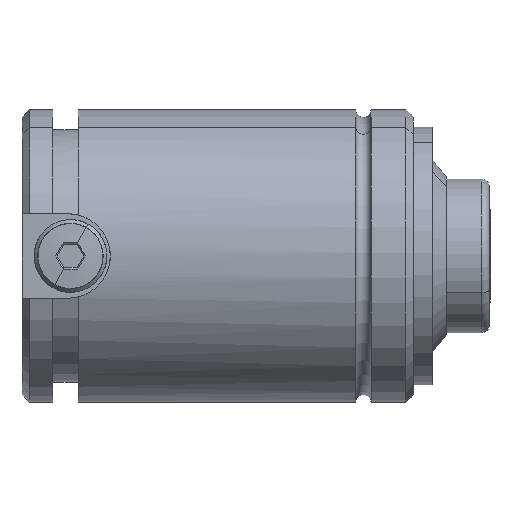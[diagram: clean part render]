
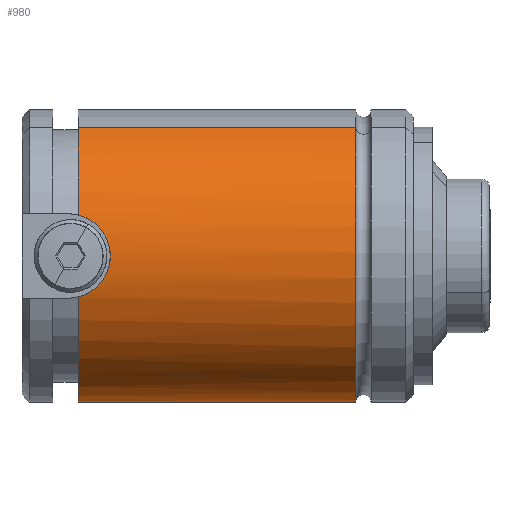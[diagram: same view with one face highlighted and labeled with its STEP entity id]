
A CAD part, front view. The second image highlights one B-rep face of the part: STEP entity #980.
In plain terms, the highlighted cylindrical face has radius 19.1 mm (diameter 38.2 mm), a partial arc.
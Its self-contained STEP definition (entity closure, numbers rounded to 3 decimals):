
#79=CARTESIAN_POINT('Vertex',(43.5,9.157,-16.762)) ;
#86=CARTESIAN_POINT('Vertex',(43.5,-9.157,16.762)) ;
#106=CARTESIAN_POINT('Axis2P3D Location',(43.5,0.,0.)) ;
#118=CARTESIAN_POINT('Axis2P3D Location',(25.5,0.,0.)) ;
#123=CARTESIAN_POINT('Line Origine',(25.5,9.157,-16.762)) ;
#127=CARTESIAN_POINT('Vertex',(7.35,9.157,-16.762)) ;
#134=CARTESIAN_POINT('Vertex',(7.35,-9.157,16.762)) ;
#137=CARTESIAN_POINT('Line Origine',(25.5,-9.157,16.762)) ;
#867=CARTESIAN_POINT('Vertex',(11.5,-19.1,0.)) ;
#871=CARTESIAN_POINT('Control Point',(7.35,-18.341,5.332)) ;
#872=CARTESIAN_POINT('Control Point',(8.766,-18.445,4.973)) ;
#873=CARTESIAN_POINT('Control Point',(10.05,-18.676,4.145)) ;
#874=CARTESIAN_POINT('Control Point',(11.008,-18.96,2.93)) ;
#875=CARTESIAN_POINT('Control Point',(11.5,-19.1,1.464)) ;
#876=CARTESIAN_POINT('Control Point',(11.5,-19.1,0.)) ;
#877=CARTESIAN_POINT('Vertex',(7.35,-18.341,5.332)) ;
#936=CARTESIAN_POINT('Control Point',(7.35,-18.341,-5.332)) ;
#937=CARTESIAN_POINT('Control Point',(8.766,-18.445,-4.973)) ;
#938=CARTESIAN_POINT('Control Point',(10.05,-18.676,-4.145)) ;
#939=CARTESIAN_POINT('Control Point',(11.009,-18.96,-2.93)) ;
#940=CARTESIAN_POINT('Control Point',(11.5,-19.1,-1.464)) ;
#941=CARTESIAN_POINT('Control Point',(11.5,-19.1,0.)) ;
#942=CARTESIAN_POINT('Vertex',(7.35,-18.341,-5.332)) ;
#945=CARTESIAN_POINT('Axis2P3D Location',(7.35,0.,0.)) ;
#949=CARTESIAN_POINT('Vertex',(7.35,-18.291,-5.5)) ;
#952=CARTESIAN_POINT('Axis2P3D Location',(7.35,0.,0.)) ;
#957=CARTESIAN_POINT('Axis2P3D Location',(7.35,0.,0.)) ;
#961=CARTESIAN_POINT('Vertex',(7.35,-18.291,5.5)) ;
#964=CARTESIAN_POINT('Axis2P3D Location',(7.35,0.,0.)) ;
#107=DIRECTION('Axis2P3D Direction',(1.,0.,0.)) ;
#119=DIRECTION('Axis2P3D Direction',(1.,0.,0.)) ;
#120=DIRECTION('Axis2P3D XDirection',(0.,0.479,-0.878)) ;
#124=DIRECTION('Vector Direction',(1.,0.,0.)) ;
#138=DIRECTION('Vector Direction',(1.,0.,0.)) ;
#946=DIRECTION('Axis2P3D Direction',(1.,0.,0.)) ;
#953=DIRECTION('Axis2P3D Direction',(1.,0.,0.)) ;
#958=DIRECTION('Axis2P3D Direction',(1.,0.,0.)) ;
#965=DIRECTION('Axis2P3D Direction',(1.,0.,0.)) ;
#108=AXIS2_PLACEMENT_3D('Circle Axis2P3D',#106,#107,$) ;
#121=AXIS2_PLACEMENT_3D('Cylinder Axis2P3D',#118,#119,#120) ;
#947=AXIS2_PLACEMENT_3D('Circle Axis2P3D',#945,#946,$) ;
#954=AXIS2_PLACEMENT_3D('Circle Axis2P3D',#952,#953,$) ;
#959=AXIS2_PLACEMENT_3D('Circle Axis2P3D',#957,#958,$) ;
#966=AXIS2_PLACEMENT_3D('Circle Axis2P3D',#964,#965,$) ;
#970=ORIENTED_EDGE('',*,*,#944,.T.) ;
#971=ORIENTED_EDGE('',*,*,#951,.T.) ;
#972=ORIENTED_EDGE('',*,*,#956,.T.) ;
#973=ORIENTED_EDGE('',*,*,#129,.F.) ;
#974=ORIENTED_EDGE('',*,*,#110,.F.) ;
#975=ORIENTED_EDGE('',*,*,#141,.T.) ;
#976=ORIENTED_EDGE('',*,*,#963,.T.) ;
#977=ORIENTED_EDGE('',*,*,#968,.T.) ;
#978=ORIENTED_EDGE('',*,*,#879,.T.) ;
#125=VECTOR('Line Direction',#124,1.) ;
#139=VECTOR('Line Direction',#138,1.) ;
#980=ADVANCED_FACE('',(#979),#122,.T.) ;
#870=B_SPLINE_CURVE_WITH_KNOTS('',5,(#871,#872,#873,#874,#875,#876),.UNSPECIFIED.,.F.,.U.,(6,6),(0.,10.353),.UNSPECIFIED.) ;
#935=B_SPLINE_CURVE_WITH_KNOTS('',5,(#936,#937,#938,#939,#940,#941),.UNSPECIFIED.,.F.,.U.,(6,6),(0.,10.353),.UNSPECIFIED.) ;
#109=CIRCLE('generated circle',#108,19.1) ;
#948=CIRCLE('generated circle',#947,19.1) ;
#955=CIRCLE('generated circle',#954,19.1) ;
#960=CIRCLE('generated circle',#959,19.1) ;
#967=CIRCLE('generated circle',#966,19.1) ;
#122=CYLINDRICAL_SURFACE('generated cylinder',#121,19.1) ;
#110=EDGE_CURVE('',#87,#80,#109,.T.) ;
#129=EDGE_CURVE('',#80,#128,#126,.F.) ;
#141=EDGE_CURVE('',#87,#135,#140,.F.) ;
#879=EDGE_CURVE('',#878,#868,#870,.T.) ;
#944=EDGE_CURVE('',#868,#943,#935,.F.) ;
#951=EDGE_CURVE('',#943,#950,#948,.T.) ;
#956=EDGE_CURVE('',#950,#128,#955,.T.) ;
#963=EDGE_CURVE('',#135,#962,#960,.T.) ;
#968=EDGE_CURVE('',#962,#878,#967,.T.) ;
#969=EDGE_LOOP('',(#970,#971,#972,#973,#974,#975,#976,#977,#978)) ;
#979=FACE_OUTER_BOUND('',#969,.T.) ;
#126=LINE('Line',#123,#125) ;
#140=LINE('Line',#137,#139) ;
#80=VERTEX_POINT('',#79) ;
#87=VERTEX_POINT('',#86) ;
#128=VERTEX_POINT('',#127) ;
#135=VERTEX_POINT('',#134) ;
#868=VERTEX_POINT('',#867) ;
#878=VERTEX_POINT('',#877) ;
#943=VERTEX_POINT('',#942) ;
#950=VERTEX_POINT('',#949) ;
#962=VERTEX_POINT('',#961) ;
